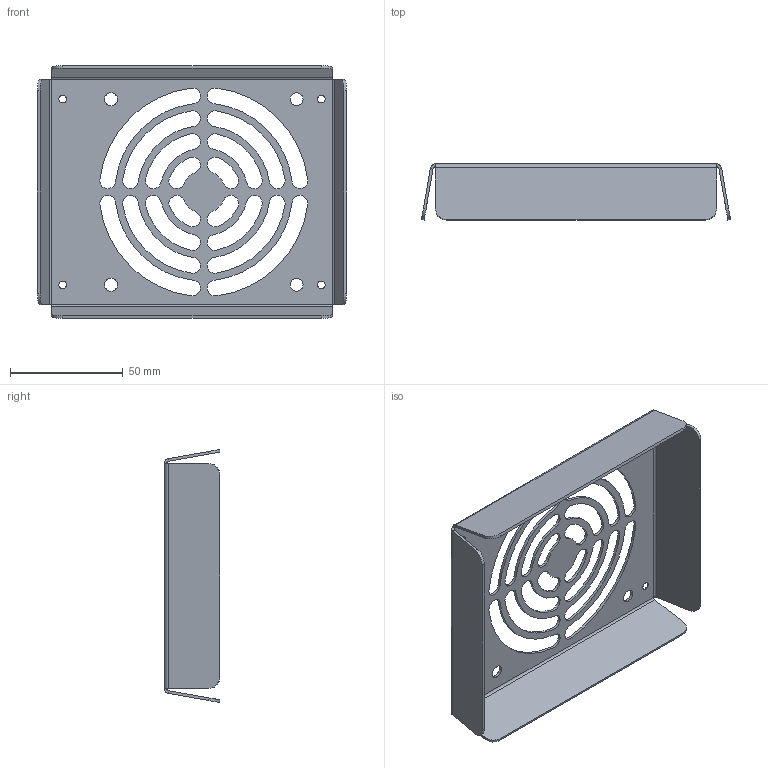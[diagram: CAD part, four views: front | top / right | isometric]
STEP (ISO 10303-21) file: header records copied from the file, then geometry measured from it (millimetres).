
FILE_DESCRIPTION (( 'STEP AP203' ), '1' );
FILE_NAME ('瑞圮裔2.STEP', '2026-09-24T07:38:15', ( '' ), ( '' ), 'SwSTEP 2.0', 'SolidWorks 2016', '' );
FILE_SCHEMA (( 'CONFIG_CONTROL_DESIGN' ));
Length unit declared in the file: millimetre
Products named in the file (1): 瑞圮裔2
Bounding box: 137.37 x 24.83 x 112.37 mm (x, y, z)
Volume: 23171.1 mm3; surface area: 41268.9 mm2
Topology: 1 solids, 1 shells, 150 faces, 404 edges, 256 vertices
Faces by surface type: cylinder 112, plane 30, cone 8
Entity records: 4953 total; most frequent: DIRECTION 938, CARTESIAN_POINT 811, ORIENTED_EDGE 808, EDGE_CURVE 404, AXIS2_PLACEMENT_3D 383, VERTEX_POINT 256, CIRCLE 232, EDGE_LOOP 198
